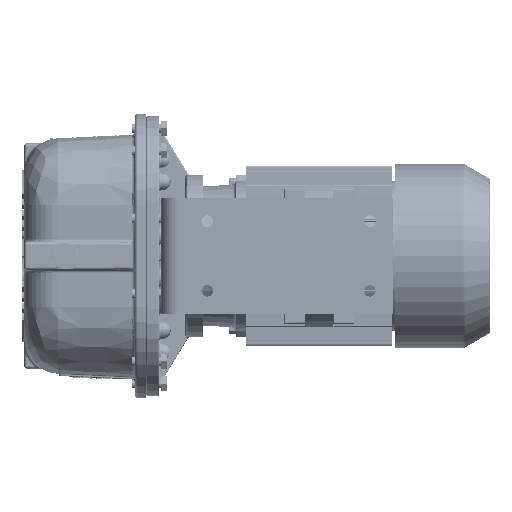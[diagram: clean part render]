
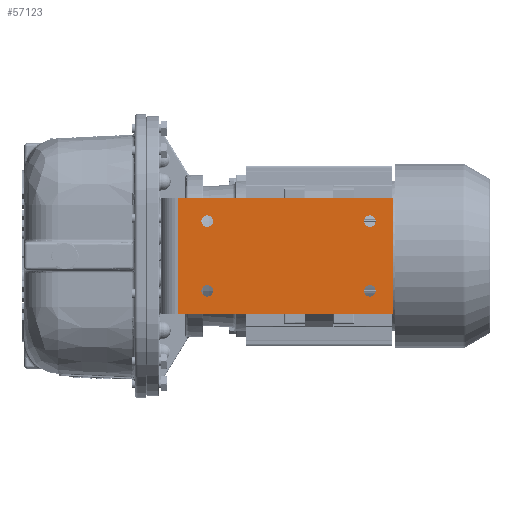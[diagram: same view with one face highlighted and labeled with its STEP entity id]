
A CAD part, front view. The second image highlights one B-rep face of the part: STEP entity #57123.
In plain terms, the highlighted planar face has unit normal (0, -1, 0).
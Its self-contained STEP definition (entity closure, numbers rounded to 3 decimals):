
#56573=DIRECTION('',(1.,0.,0.));
#56574=VECTOR('',#56573,185.);
#56575=CARTESIAN_POINT('',(15.,0.,-50.));
#56576=LINE('',#56575,#56574);
#56711=DIRECTION('',(0.,0.,1.));
#56712=VECTOR('',#56711,100.);
#56713=CARTESIAN_POINT('',(200.,0.,-50.));
#56714=LINE('',#56713,#56712);
#56715=DIRECTION('',(0.,0.,-1.));
#56716=VECTOR('',#56715,100.);
#56717=CARTESIAN_POINT('',(15.,0.,50.));
#56718=LINE('',#56717,#56716);
#56719=CARTESIAN_POINT('',(40.,0.,-30.));
#56720=DIRECTION('',(0.,1.,0.));
#56721=DIRECTION('',(1.,0.,0.));
#56722=AXIS2_PLACEMENT_3D('',#56719,#56720,#56721);
#56724=CARTESIAN_POINT('',(40.,0.,-30.));
#56725=DIRECTION('',(0.,1.,0.));
#56726=DIRECTION('',(-1.,0.,0.));
#56727=AXIS2_PLACEMENT_3D('',#56724,#56725,#56726);
#56729=CARTESIAN_POINT('',(40.,0.,30.));
#56730=DIRECTION('',(0.,1.,0.));
#56731=DIRECTION('',(1.,0.,0.));
#56732=AXIS2_PLACEMENT_3D('',#56729,#56730,#56731);
#56734=CARTESIAN_POINT('',(40.,0.,30.));
#56735=DIRECTION('',(0.,1.,0.));
#56736=DIRECTION('',(-1.,0.,0.));
#56737=AXIS2_PLACEMENT_3D('',#56734,#56735,#56736);
#56739=CARTESIAN_POINT('',(180.,0.,-30.));
#56740=DIRECTION('',(0.,1.,0.));
#56741=DIRECTION('',(1.,0.,0.));
#56742=AXIS2_PLACEMENT_3D('',#56739,#56740,#56741);
#56744=CARTESIAN_POINT('',(180.,0.,-30.));
#56745=DIRECTION('',(0.,1.,0.));
#56746=DIRECTION('',(-1.,0.,0.));
#56747=AXIS2_PLACEMENT_3D('',#56744,#56745,#56746);
#56749=CARTESIAN_POINT('',(180.,0.,30.));
#56750=DIRECTION('',(0.,1.,0.));
#56751=DIRECTION('',(1.,0.,0.));
#56752=AXIS2_PLACEMENT_3D('',#56749,#56750,#56751);
#56754=CARTESIAN_POINT('',(180.,0.,30.));
#56755=DIRECTION('',(0.,1.,0.));
#56756=DIRECTION('',(-1.,0.,0.));
#56757=AXIS2_PLACEMENT_3D('',#56754,#56755,#56756);
#56784=DIRECTION('',(1.,0.,0.));
#56785=VECTOR('',#56784,185.);
#56786=CARTESIAN_POINT('',(15.,0.,50.));
#56787=LINE('',#56786,#56785);
#56836=CARTESIAN_POINT('',(200.,0.,-50.));
#56838=VERTEX_POINT('',#56836);
#56844=CARTESIAN_POINT('',(200.,0.,50.));
#56846=VERTEX_POINT('',#56844);
#56860=CARTESIAN_POINT('',(15.,0.,-50.));
#56862=VERTEX_POINT('',#56860);
#56866=CARTESIAN_POINT('',(15.,0.,50.));
#56867=VERTEX_POINT('',#56866);
#56868=CARTESIAN_POINT('',(45.,0.,-30.));
#56869=CARTESIAN_POINT('',(35.,0.,-30.));
#56870=VERTEX_POINT('',#56868);
#56871=VERTEX_POINT('',#56869);
#56872=CARTESIAN_POINT('',(45.,0.,30.));
#56873=CARTESIAN_POINT('',(35.,0.,30.));
#56874=VERTEX_POINT('',#56872);
#56875=VERTEX_POINT('',#56873);
#56876=CARTESIAN_POINT('',(185.,0.,-30.));
#56877=CARTESIAN_POINT('',(175.,0.,-30.));
#56878=VERTEX_POINT('',#56876);
#56879=VERTEX_POINT('',#56877);
#56880=CARTESIAN_POINT('',(185.,0.,30.));
#56881=CARTESIAN_POINT('',(175.,0.,30.));
#56882=VERTEX_POINT('',#56880);
#56883=VERTEX_POINT('',#56881);
#57087=CARTESIAN_POINT('',(0.,0.,-50.));
#57088=DIRECTION('',(0.,-1.,0.));
#57089=DIRECTION('',(1.,0.,0.));
#57090=AXIS2_PLACEMENT_3D('',#57087,#57088,#57089);
#57091=PLANE('',#57090);
#57092=ORIENTED_EDGE('',*,*,#56950,.F.);
#57094=ORIENTED_EDGE('',*,*,#57093,.T.);
#57095=ORIENTED_EDGE('',*,*,#57079,.F.);
#57096=ORIENTED_EDGE('',*,*,#56923,.F.);
#57097=EDGE_LOOP('',(#57092,#57094,#57095,#57096));
#57098=FACE_OUTER_BOUND('',#57097,.F.);
#57100=ORIENTED_EDGE('',*,*,#57099,.F.);
#57102=ORIENTED_EDGE('',*,*,#57101,.F.);
#57103=EDGE_LOOP('',(#57100,#57102));
#57104=FACE_BOUND('',#57103,.F.);
#57106=ORIENTED_EDGE('',*,*,#57105,.F.);
#57108=ORIENTED_EDGE('',*,*,#57107,.F.);
#57109=EDGE_LOOP('',(#57106,#57108));
#57110=FACE_BOUND('',#57109,.F.);
#57112=ORIENTED_EDGE('',*,*,#57111,.F.);
#57114=ORIENTED_EDGE('',*,*,#57113,.F.);
#57115=EDGE_LOOP('',(#57112,#57114));
#57116=FACE_BOUND('',#57115,.F.);
#57118=ORIENTED_EDGE('',*,*,#57117,.F.);
#57120=ORIENTED_EDGE('',*,*,#57119,.F.);
#57121=EDGE_LOOP('',(#57118,#57120));
#57122=FACE_BOUND('',#57121,.F.);
#57123=ADVANCED_FACE('',(#57098,#57104,#57110,#57116,#57122),#57091,.T.);
#56723=CIRCLE('',#56722,5.);
#56728=CIRCLE('',#56727,5.);
#56733=CIRCLE('',#56732,5.);
#56738=CIRCLE('',#56737,5.);
#56743=CIRCLE('',#56742,5.);
#56748=CIRCLE('',#56747,5.);
#56753=CIRCLE('',#56752,5.);
#56758=CIRCLE('',#56757,5.);
#56923=EDGE_CURVE('',#56862,#56838,#56576,.T.);
#56950=EDGE_CURVE('',#56867,#56862,#56718,.T.);
#57079=EDGE_CURVE('',#56838,#56846,#56714,.T.);
#57093=EDGE_CURVE('',#56867,#56846,#56787,.T.);
#57099=EDGE_CURVE('',#56870,#56871,#56723,.T.);
#57101=EDGE_CURVE('',#56871,#56870,#56728,.T.);
#57105=EDGE_CURVE('',#56874,#56875,#56733,.T.);
#57107=EDGE_CURVE('',#56875,#56874,#56738,.T.);
#57111=EDGE_CURVE('',#56878,#56879,#56743,.T.);
#57113=EDGE_CURVE('',#56879,#56878,#56748,.T.);
#57117=EDGE_CURVE('',#56882,#56883,#56753,.T.);
#57119=EDGE_CURVE('',#56883,#56882,#56758,.T.);
